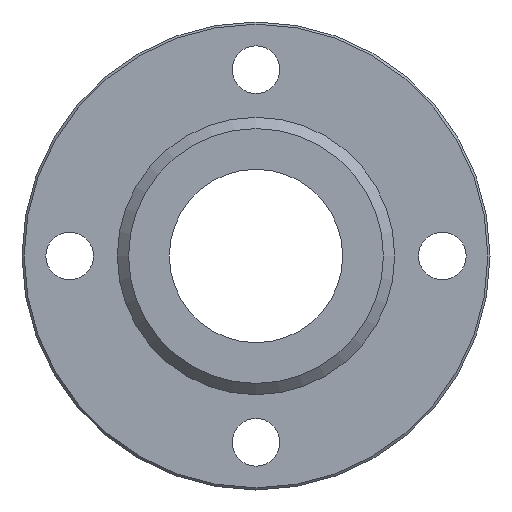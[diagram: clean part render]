
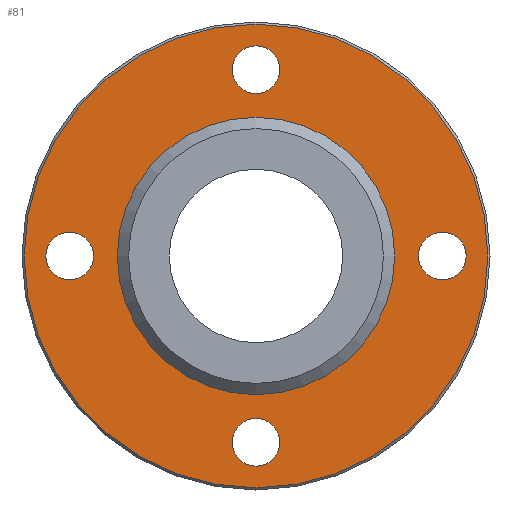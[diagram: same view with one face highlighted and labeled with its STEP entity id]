
A CAD part, left-side view. The second image highlights one B-rep face of the part: STEP entity #81.
In plain terms, the highlighted planar face has unit normal (-1, 0, 0).
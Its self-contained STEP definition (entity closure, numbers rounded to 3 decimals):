
#81=ADVANCED_FACE('',(#119,#120,#121,#122,#123,#124),#125,.F.);
#119=FACE_BOUND('',#190,.T.);
#120=FACE_BOUND('',#191,.T.);
#121=FACE_BOUND('',#192,.T.);
#122=FACE_BOUND('',#193,.T.);
#123=FACE_BOUND('',#194,.T.);
#124=FACE_OUTER_BOUND('',#195,.T.);
#125=PLANE('',#196);
#190=EDGE_LOOP('',(#273));
#191=EDGE_LOOP('',(#274));
#192=EDGE_LOOP('',(#275));
#193=EDGE_LOOP('',(#276));
#194=EDGE_LOOP('',(#277));
#195=EDGE_LOOP('',(#278));
#196=AXIS2_PLACEMENT_3D('',#279,#280,#281);
#273=ORIENTED_EDGE('',*,*,#364,.T.);
#274=ORIENTED_EDGE('',*,*,#365,.T.);
#275=ORIENTED_EDGE('',*,*,#366,.T.);
#276=ORIENTED_EDGE('',*,*,#367,.T.);
#277=ORIENTED_EDGE('',*,*,#363,.F.);
#278=ORIENTED_EDGE('',*,*,#368,.T.);
#279=CARTESIAN_POINT('',(-11.0,26.746,0.0));
#280=DIRECTION('',(1.0,0.0,0.0));
#281=DIRECTION('',(0.0,0.0,-1.0));
#363=EDGE_CURVE('',#399,#399,#400,.T.);
#364=EDGE_CURVE('',#401,#401,#402,.T.);
#365=EDGE_CURVE('',#403,#403,#404,.T.);
#366=EDGE_CURVE('',#405,#405,#406,.T.);
#367=EDGE_CURVE('',#407,#407,#408,.T.);
#368=EDGE_CURVE('',#409,#409,#410,.T.);
#399=VERTEX_POINT('',#449);
#400=CIRCLE('',#450,16.0);
#401=VERTEX_POINT('',#451);
#402=CIRCLE('',#452,2.75);
#403=VERTEX_POINT('',#453);
#404=CIRCLE('',#454,2.75);
#405=VERTEX_POINT('',#455);
#406=CIRCLE('',#456,2.75);
#407=VERTEX_POINT('',#457);
#408=CIRCLE('',#458,2.75);
#409=VERTEX_POINT('',#459);
#410=CIRCLE('',#460,26.746);
#449=CARTESIAN_POINT('',(-11.0,0.0,16.0));
#450=AXIS2_PLACEMENT_3D('',#510,#511,#512);
#451=CARTESIAN_POINT('',(-11.0,0.0,-24.25));
#452=AXIS2_PLACEMENT_3D('',#513,#514,#515);
#453=CARTESIAN_POINT('',(-11.0,21.5,-2.75));
#454=AXIS2_PLACEMENT_3D('',#516,#517,#518);
#455=CARTESIAN_POINT('',(-11.0,-21.5,-2.75));
#456=AXIS2_PLACEMENT_3D('',#519,#520,#521);
#457=CARTESIAN_POINT('',(-11.0,0.0,18.75));
#458=AXIS2_PLACEMENT_3D('',#522,#523,#524);
#459=CARTESIAN_POINT('',(-11.0,0.0,26.746));
#460=AXIS2_PLACEMENT_3D('',#525,#526,#527);
#510=CARTESIAN_POINT('',(-11.0,0.0,0.0));
#511=DIRECTION('',(-1.0,0.0,0.0));
#512=DIRECTION('',(0.0,0.0,1.0));
#513=CARTESIAN_POINT('',(-11.0,0.0,-21.5));
#514=DIRECTION('',(1.0,0.0,0.0));
#515=DIRECTION('',(0.0,0.0,-1.0));
#516=CARTESIAN_POINT('',(-11.0,21.5,0.0));
#517=DIRECTION('',(1.0,0.0,0.0));
#518=DIRECTION('',(0.0,0.0,-1.0));
#519=CARTESIAN_POINT('',(-11.0,-21.5,0.0));
#520=DIRECTION('',(1.0,0.0,0.0));
#521=DIRECTION('',(0.0,0.0,-1.0));
#522=CARTESIAN_POINT('',(-11.0,0.0,21.5));
#523=DIRECTION('',(1.0,0.0,0.0));
#524=DIRECTION('',(0.0,0.0,-1.0));
#525=CARTESIAN_POINT('',(-11.0,0.0,0.0));
#526=DIRECTION('',(-1.0,0.0,0.0));
#527=DIRECTION('',(0.0,0.0,1.0));
